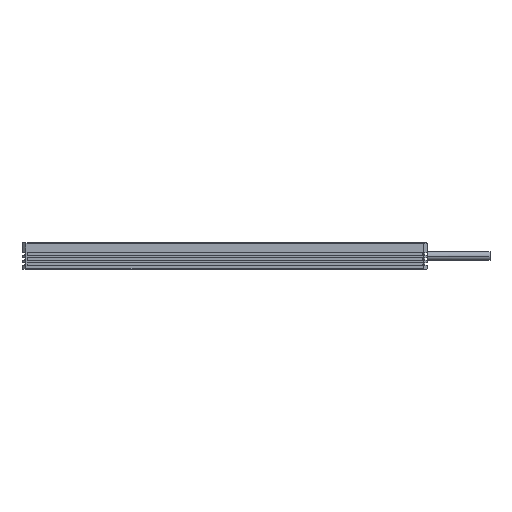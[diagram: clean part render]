
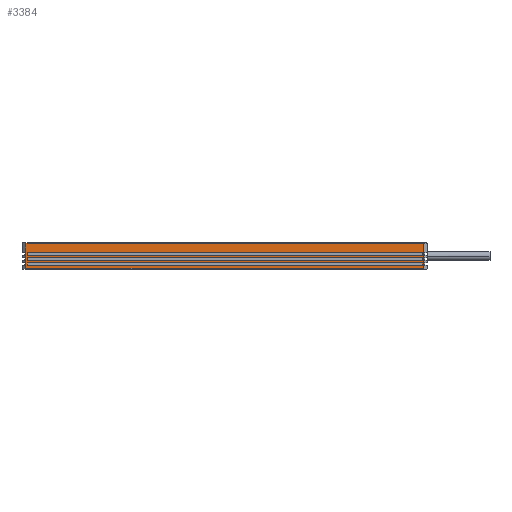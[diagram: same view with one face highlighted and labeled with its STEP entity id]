
A CAD part, left-side view. The second image highlights one B-rep face of the part: STEP entity #3384.
In plain terms, the highlighted planar face has unit normal (-1, 0, 0).
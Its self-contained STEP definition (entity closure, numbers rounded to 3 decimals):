
#282=DIRECTION('',(0.,1.,0.));
#283=VECTOR('',#282,158.);
#284=CARTESIAN_POINT('',(-101.,-79.,-2.4));
#285=LINE('',#284,#283);
#286=DIRECTION('',(0.,1.,0.));
#287=VECTOR('',#286,158.);
#288=CARTESIAN_POINT('',(-101.,-79.,-4.4));
#289=LINE('',#288,#287);
#290=DIRECTION('',(0.,0.,1.));
#291=VECTOR('',#290,0.1);
#292=CARTESIAN_POINT('',(-101.,-65.,-7.6));
#293=LINE('',#292,#291);
#294=DIRECTION('',(0.,1.,0.));
#295=VECTOR('',#294,158.);
#296=CARTESIAN_POINT('',(-101.,-79.,-6.4));
#297=LINE('',#296,#295);
#298=DIRECTION('',(0.,0.,1.));
#299=VECTOR('',#298,0.1);
#300=CARTESIAN_POINT('',(-101.,65.,-7.6));
#301=LINE('',#300,#299);
#302=DIRECTION('',(0.,1.,0.));
#303=VECTOR('',#302,159.);
#304=CARTESIAN_POINT('',(-101.,-79.5,-8.8));
#305=LINE('',#304,#303);
#306=DIRECTION('',(0.,0.,-1.));
#307=VECTOR('',#306,10.3);
#308=CARTESIAN_POINT('',(-101.,79.5,1.5));
#309=LINE('',#308,#307);
#310=DIRECTION('',(0.,-1.,0.));
#311=VECTOR('',#310,0.5);
#312=CARTESIAN_POINT('',(-101.,79.5,1.5));
#313=LINE('',#312,#311);
#314=DIRECTION('',(0.,1.,0.));
#315=VECTOR('',#314,158.);
#316=CARTESIAN_POINT('',(-101.,-79.,-3.6));
#317=LINE('',#316,#315);
#406=DIRECTION('',(0.,0.,1.));
#407=VECTOR('',#406,1.1);
#408=CARTESIAN_POINT('',(-101.,79.,-7.5));
#409=LINE('',#408,#407);
#422=DIRECTION('',(0.,0.,1.));
#423=VECTOR('',#422,1.2);
#424=CARTESIAN_POINT('',(-101.,79.,-5.6));
#425=LINE('',#424,#423);
#446=DIRECTION('',(0.,0.,1.));
#447=VECTOR('',#446,1.2);
#448=CARTESIAN_POINT('',(-101.,79.,-3.6));
#449=LINE('',#448,#447);
#470=DIRECTION('',(0.,0.,1.));
#471=VECTOR('',#470,0.2);
#472=CARTESIAN_POINT('',(-101.,79.,1.3));
#473=LINE('',#472,#471);
#510=DIRECTION('',(0.,0.,-1.));
#511=VECTOR('',#510,1.1);
#512=CARTESIAN_POINT('',(-101.,-79.,-6.4));
#513=LINE('',#512,#511);
#538=DIRECTION('',(0.,0.,-1.));
#539=VECTOR('',#538,1.2);
#540=CARTESIAN_POINT('',(-101.,-79.,-4.4));
#541=LINE('',#540,#539);
#562=DIRECTION('',(0.,0.,-1.));
#563=VECTOR('',#562,1.2);
#564=CARTESIAN_POINT('',(-101.,-79.,-2.4));
#565=LINE('',#564,#563);
#594=DIRECTION('',(0.,1.,0.));
#595=VECTOR('',#594,14.);
#596=CARTESIAN_POINT('',(-101.,-79.,-7.5));
#597=LINE('',#596,#595);
#610=DIRECTION('',(0.,1.,0.));
#611=VECTOR('',#610,14.);
#612=CARTESIAN_POINT('',(-101.,65.,-7.5));
#613=LINE('',#612,#611);
#790=DIRECTION('',(0.,0.,1.));
#791=VECTOR('',#790,10.1);
#792=CARTESIAN_POINT('',(-101.,-79.5,-8.8));
#793=LINE('',#792,#791);
#1422=DIRECTION('',(0.,1.,0.));
#1423=VECTOR('',#1422,158.5);
#1424=CARTESIAN_POINT('',(-101.,-79.5,1.3));
#1425=LINE('',#1424,#1423);
#2008=DIRECTION('',(0.,1.,0.));
#2009=VECTOR('',#2008,130.);
#2010=CARTESIAN_POINT('',(-101.,-65.,-7.6));
#2011=LINE('',#2010,#2009);
#2040=DIRECTION('',(0.,1.,0.));
#2041=VECTOR('',#2040,158.);
#2042=CARTESIAN_POINT('',(-101.,-79.,-5.6));
#2043=LINE('',#2042,#2041);
#2411=CARTESIAN_POINT('',(-101.,65.,-7.5));
#2412=CARTESIAN_POINT('',(-101.,79.,-7.5));
#2413=VERTEX_POINT('',#2411);
#2414=VERTEX_POINT('',#2412);
#2533=CARTESIAN_POINT('',(-101.,79.5,1.5));
#2534=VERTEX_POINT('',#2533);
#2535=CARTESIAN_POINT('',(-101.,79.5,-8.8));
#2536=VERTEX_POINT('',#2535);
#2591=CARTESIAN_POINT('',(-101.,79.,1.5));
#2592=VERTEX_POINT('',#2591);
#2707=CARTESIAN_POINT('',(-101.,-79.,-7.5));
#2708=CARTESIAN_POINT('',(-101.,-65.,-7.5));
#2709=VERTEX_POINT('',#2707);
#2710=VERTEX_POINT('',#2708);
#2883=CARTESIAN_POINT('',(-101.,-79.5,1.3));
#2884=VERTEX_POINT('',#2883);
#2887=CARTESIAN_POINT('',(-101.,-79.5,-8.8));
#2889=VERTEX_POINT('',#2887);
#3033=CARTESIAN_POINT('',(-101.,79.,-6.4));
#3034=VERTEX_POINT('',#3033);
#3035=CARTESIAN_POINT('',(-101.,79.,-5.6));
#3037=VERTEX_POINT('',#3035);
#3045=CARTESIAN_POINT('',(-101.,79.,-4.4));
#3046=VERTEX_POINT('',#3045);
#3047=CARTESIAN_POINT('',(-101.,79.,-3.6));
#3049=VERTEX_POINT('',#3047);
#3057=CARTESIAN_POINT('',(-101.,79.,-2.4));
#3058=VERTEX_POINT('',#3057);
#3059=CARTESIAN_POINT('',(-101.,79.,1.3));
#3061=VERTEX_POINT('',#3059);
#3063=CARTESIAN_POINT('',(-101.,65.,-7.6));
#3065=VERTEX_POINT('',#3063);
#3075=CARTESIAN_POINT('',(-101.,-79.,-6.4));
#3076=VERTEX_POINT('',#3075);
#3077=CARTESIAN_POINT('',(-101.,-79.,-5.6));
#3079=VERTEX_POINT('',#3077);
#3087=CARTESIAN_POINT('',(-101.,-79.,-4.4));
#3088=VERTEX_POINT('',#3087);
#3089=CARTESIAN_POINT('',(-101.,-79.,-3.6));
#3091=VERTEX_POINT('',#3089);
#3099=CARTESIAN_POINT('',(-101.,-79.,-2.4));
#3100=VERTEX_POINT('',#3099);
#3101=CARTESIAN_POINT('',(-101.,-65.,-7.6));
#3103=VERTEX_POINT('',#3101);
#3328=CARTESIAN_POINT('',(-101.,81.,1.5));
#3329=DIRECTION('',(1.,0.,0.));
#3330=DIRECTION('',(0.,-1.,0.));
#3331=AXIS2_PLACEMENT_3D('',#3328,#3329,#3330);
#3332=PLANE('',#3331);
#3334=ORIENTED_EDGE('',*,*,#3333,.F.);
#3336=ORIENTED_EDGE('',*,*,#3335,.F.);
#3337=ORIENTED_EDGE('',*,*,#3318,.T.);
#3339=ORIENTED_EDGE('',*,*,#3338,.F.);
#3341=ORIENTED_EDGE('',*,*,#3340,.T.);
#3343=ORIENTED_EDGE('',*,*,#3342,.F.);
#3344=EDGE_LOOP('',(#3334,#3336,#3337,#3339,#3341,#3343));
#3345=FACE_OUTER_BOUND('',#3344,.F.);
#3347=ORIENTED_EDGE('',*,*,#3346,.F.);
#3349=ORIENTED_EDGE('',*,*,#3348,.F.);
#3351=ORIENTED_EDGE('',*,*,#3350,.T.);
#3353=ORIENTED_EDGE('',*,*,#3352,.F.);
#3354=EDGE_LOOP('',(#3347,#3349,#3351,#3353));
#3355=FACE_BOUND('',#3354,.F.);
#3357=ORIENTED_EDGE('',*,*,#3356,.F.);
#3359=ORIENTED_EDGE('',*,*,#3358,.T.);
#3361=ORIENTED_EDGE('',*,*,#3360,.F.);
#3363=ORIENTED_EDGE('',*,*,#3362,.F.);
#3365=ORIENTED_EDGE('',*,*,#3364,.T.);
#3367=ORIENTED_EDGE('',*,*,#3366,.F.);
#3369=ORIENTED_EDGE('',*,*,#3368,.F.);
#3371=ORIENTED_EDGE('',*,*,#3370,.F.);
#3372=EDGE_LOOP('',(#3357,#3359,#3361,#3363,#3365,#3367,#3369,#3371));
#3373=FACE_BOUND('',#3372,.F.);
#3375=ORIENTED_EDGE('',*,*,#3374,.F.);
#3377=ORIENTED_EDGE('',*,*,#3376,.F.);
#3379=ORIENTED_EDGE('',*,*,#3378,.T.);
#3381=ORIENTED_EDGE('',*,*,#3380,.F.);
#3382=EDGE_LOOP('',(#3375,#3377,#3379,#3381));
#3383=FACE_BOUND('',#3382,.F.);
#3318=EDGE_CURVE('',#2889,#2536,#305,.T.);
#3333=EDGE_CURVE('',#2884,#3061,#1425,.T.);
#3335=EDGE_CURVE('',#2889,#2884,#793,.T.);
#3338=EDGE_CURVE('',#2534,#2536,#309,.T.);
#3340=EDGE_CURVE('',#2534,#2592,#313,.T.);
#3342=EDGE_CURVE('',#3061,#2592,#473,.T.);
#3346=EDGE_CURVE('',#3079,#3037,#2043,.T.);
#3348=EDGE_CURVE('',#3088,#3079,#541,.T.);
#3350=EDGE_CURVE('',#3088,#3046,#289,.T.);
#3352=EDGE_CURVE('',#3037,#3046,#425,.T.);
#3356=EDGE_CURVE('',#3103,#3065,#2011,.T.);
#3358=EDGE_CURVE('',#3103,#2710,#293,.T.);
#3360=EDGE_CURVE('',#2709,#2710,#597,.T.);
#3362=EDGE_CURVE('',#3076,#2709,#513,.T.);
#3364=EDGE_CURVE('',#3076,#3034,#297,.T.);
#3366=EDGE_CURVE('',#2414,#3034,#409,.T.);
#3368=EDGE_CURVE('',#2413,#2414,#613,.T.);
#3370=EDGE_CURVE('',#3065,#2413,#301,.T.);
#3374=EDGE_CURVE('',#3091,#3049,#317,.T.);
#3376=EDGE_CURVE('',#3100,#3091,#565,.T.);
#3378=EDGE_CURVE('',#3100,#3058,#285,.T.);
#3380=EDGE_CURVE('',#3049,#3058,#449,.T.);
#3384=ADVANCED_FACE('',(#3345,#3355,#3373,#3383),#3332,.F.);
